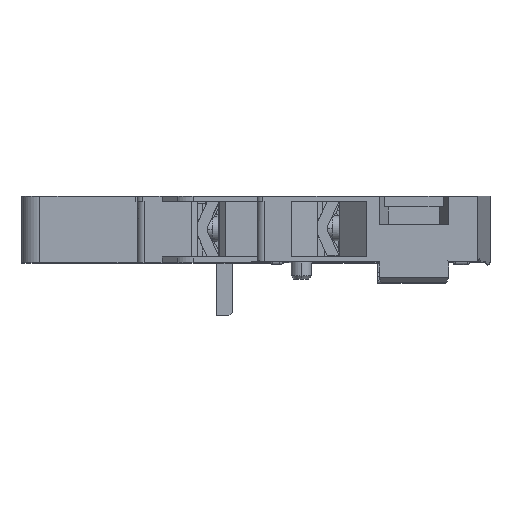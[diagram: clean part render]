
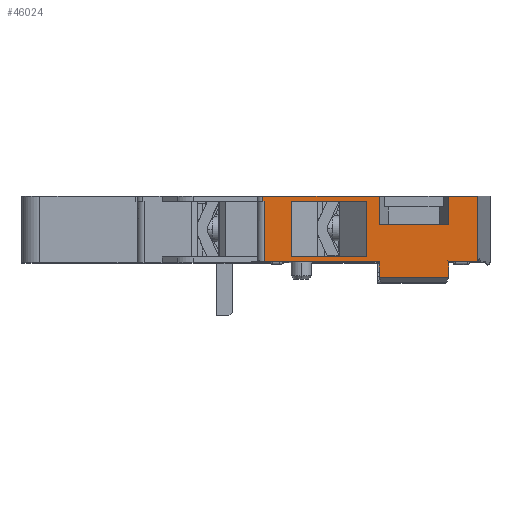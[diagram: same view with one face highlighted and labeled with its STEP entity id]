
A CAD part, top view. The second image highlights one B-rep face of the part: STEP entity #46024.
In plain terms, the highlighted planar face has unit normal (0, 0, 1).
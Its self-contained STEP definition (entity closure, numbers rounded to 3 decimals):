
#1677=DIRECTION('',(-1.,0.,0.));
#1678=VECTOR('',#1677,4.113);
#1679=CARTESIAN_POINT('',(63.814,9.2,43.5));
#1680=LINE('',#1679,#1678);
#1693=DIRECTION('',(-1.,0.,0.));
#1694=VECTOR('',#1693,16.3);
#1695=CARTESIAN_POINT('',(50.,9.2,43.5));
#1696=LINE('',#1695,#1694);
#4376=DIRECTION('',(0.,-1.,0.));
#4377=VECTOR('',#4376,7.8);
#4378=CARTESIAN_POINT('',(48.2,8.5,43.5));
#4379=LINE('',#4378,#4377);
#4380=DIRECTION('',(1.,0.,0.));
#4381=VECTOR('',#4380,0.2);
#4382=CARTESIAN_POINT('',(33.7,8.5,43.5));
#4383=LINE('',#4382,#4381);
#4384=DIRECTION('',(1.,0.,0.));
#4385=VECTOR('',#4384,9.7);
#4386=CARTESIAN_POINT('',(50.,5.2,43.5));
#4387=LINE('',#4386,#4385);
#4388=DIRECTION('',(-1.,0.,0.));
#4389=VECTOR('',#4388,4.113);
#4390=CARTESIAN_POINT('',(63.814,0.,43.5));
#4391=LINE('',#4390,#4389);
#4392=DIRECTION('',(0.,-1.,0.));
#4393=VECTOR('',#4392,2.2);
#4394=CARTESIAN_POINT('',(59.7,0.,43.5));
#4395=LINE('',#4394,#4393);
#4396=DIRECTION('',(-1.,0.,0.));
#4397=VECTOR('',#4396,9.7);
#4398=CARTESIAN_POINT('',(59.7,-2.2,43.5));
#4399=LINE('',#4398,#4397);
#4400=DIRECTION('',(-1.,0.,0.));
#4401=VECTOR('',#4400,16.1);
#4402=CARTESIAN_POINT('',(50.,0.,43.5));
#4403=LINE('',#4402,#4401);
#4404=DIRECTION('',(1.,0.,0.));
#4405=VECTOR('',#4404,10.5);
#4406=CARTESIAN_POINT('',(37.7,8.5,43.5));
#4407=LINE('',#4406,#4405);
#4408=DIRECTION('',(-1.,0.,0.));
#4409=VECTOR('',#4408,10.5);
#4410=CARTESIAN_POINT('',(48.2,0.7,43.5));
#4411=LINE('',#4410,#4409);
#4417=DIRECTION('',(0.,-1.,0.));
#4418=VECTOR('',#4417,8.5);
#4419=CARTESIAN_POINT('',(33.9,8.5,43.5));
#4420=LINE('',#4419,#4418);
#4421=CARTESIAN_POINT('',(33.9,0.,43.5));
#6633=DIRECTION('',(0.,1.,0.));
#6634=VECTOR('',#6633,9.2);
#6635=CARTESIAN_POINT('',(63.814,0.,43.5));
#6636=LINE('',#6635,#6634);
#6683=CARTESIAN_POINT('',(63.814,0.,43.5));
#6707=CARTESIAN_POINT('',(59.7,0.,43.5));
#6741=DIRECTION('',(0.,-1.,0.));
#6742=VECTOR('',#6741,4.);
#6743=CARTESIAN_POINT('',(59.7,9.2,43.5));
#6744=LINE('',#6743,#6742);
#6781=DIRECTION('',(0.,1.,0.));
#6782=VECTOR('',#6781,4.);
#6783=CARTESIAN_POINT('',(50.,5.2,43.5));
#6784=LINE('',#6783,#6782);
#6857=CARTESIAN_POINT('',(50.,0.,43.5));
#6873=DIRECTION('',(0.,-1.,0.));
#6874=VECTOR('',#6873,2.2);
#6875=CARTESIAN_POINT('',(50.,0.,43.5));
#6876=LINE('',#6875,#6874);
#21591=DIRECTION('',(0.,1.,0.));
#21592=VECTOR('',#21591,7.8);
#21593=CARTESIAN_POINT('',(37.7,0.7,43.5));
#21594=LINE('',#21593,#21592);
#26755=DIRECTION('',(0.,1.,0.));
#26756=VECTOR('',#26755,0.7);
#26757=CARTESIAN_POINT('',(33.7,8.5,43.5));
#26758=LINE('',#26757,#26756);
#32713=CARTESIAN_POINT('',(48.2,0.7,43.5));
#32714=CARTESIAN_POINT('',(37.7,0.7,43.5));
#32715=VERTEX_POINT('',#32713);
#32716=VERTEX_POINT('',#32714);
#34599=CARTESIAN_POINT('',(59.7,-2.2,43.5));
#34600=CARTESIAN_POINT('',(50.,-2.2,43.5));
#34601=VERTEX_POINT('',#34599);
#34602=VERTEX_POINT('',#34600);
#34611=VERTEX_POINT('',#6683);
#34626=VERTEX_POINT('',#6707);
#34627=VERTEX_POINT('',#6857);
#35240=VERTEX_POINT('',#4421);
#38277=CARTESIAN_POINT('',(63.814,9.2,43.5));
#38279=VERTEX_POINT('',#38277);
#38318=CARTESIAN_POINT('',(33.7,9.2,43.5));
#38320=VERTEX_POINT('',#38318);
#39518=CARTESIAN_POINT('',(33.7,8.5,43.5));
#39520=VERTEX_POINT('',#39518);
#39526=CARTESIAN_POINT('',(48.2,8.5,43.5));
#39528=VERTEX_POINT('',#39526);
#40055=CARTESIAN_POINT('',(59.7,9.2,43.5));
#40057=VERTEX_POINT('',#40055);
#40061=CARTESIAN_POINT('',(50.,9.2,43.5));
#40062=VERTEX_POINT('',#40061);
#40552=CARTESIAN_POINT('',(59.7,5.2,43.5));
#40554=VERTEX_POINT('',#40552);
#40565=CARTESIAN_POINT('',(50.,5.2,43.5));
#40567=VERTEX_POINT('',#40565);
#40598=CARTESIAN_POINT('',(37.7,8.5,43.5));
#40600=VERTEX_POINT('',#40598);
#41228=CARTESIAN_POINT('',(33.9,8.5,43.5));
#41230=VERTEX_POINT('',#41228);
#45983=CARTESIAN_POINT('',(32.9,0.,43.5));
#45984=DIRECTION('',(0.,0.,1.));
#45985=DIRECTION('',(1.,0.,0.));
#45986=AXIS2_PLACEMENT_3D('',#45983,#45984,#45985);
#45987=PLANE('',#45986);
#45989=ORIENTED_EDGE('',*,*,#45988,.F.);
#45991=ORIENTED_EDGE('',*,*,#45990,.F.);
#45993=ORIENTED_EDGE('',*,*,#45992,.T.);
#45994=ORIENTED_EDGE('',*,*,#43400,.F.);
#45996=ORIENTED_EDGE('',*,*,#45995,.F.);
#45998=ORIENTED_EDGE('',*,*,#45997,.T.);
#46000=ORIENTED_EDGE('',*,*,#45999,.F.);
#46001=ORIENTED_EDGE('',*,*,#43392,.F.);
#46003=ORIENTED_EDGE('',*,*,#46002,.F.);
#46005=ORIENTED_EDGE('',*,*,#46004,.T.);
#46007=ORIENTED_EDGE('',*,*,#46006,.T.);
#46009=ORIENTED_EDGE('',*,*,#46008,.T.);
#46011=ORIENTED_EDGE('',*,*,#46010,.F.);
#46013=ORIENTED_EDGE('',*,*,#46012,.T.);
#46014=EDGE_LOOP('',(#45989,#45991,#45993,#45994,#45996,#45998,#46000,#46001,
#46003,#46005,#46007,#46009,#46011,#46013));
#46015=FACE_OUTER_BOUND('',#46014,.F.);
#46016=ORIENTED_EDGE('',*,*,#45976,.F.);
#46017=ORIENTED_EDGE('',*,*,#44798,.F.);
#46019=ORIENTED_EDGE('',*,*,#46018,.F.);
#46021=ORIENTED_EDGE('',*,*,#46020,.F.);
#46022=EDGE_LOOP('',(#46016,#46017,#46019,#46021));
#46023=FACE_BOUND('',#46022,.F.);
#46024=ADVANCED_FACE('',(#46015,#46023),#45987,.T.);
#43392=EDGE_CURVE('',#38279,#40057,#1680,.T.);
#43400=EDGE_CURVE('',#40062,#38320,#1696,.T.);
#44798=EDGE_CURVE('',#40600,#39528,#4407,.T.);
#45976=EDGE_CURVE('',#39528,#32715,#4379,.T.);
#45988=EDGE_CURVE('',#41230,#35240,#4420,.T.);
#45990=EDGE_CURVE('',#39520,#41230,#4383,.T.);
#45992=EDGE_CURVE('',#39520,#38320,#26758,.T.);
#45995=EDGE_CURVE('',#40567,#40062,#6784,.T.);
#45997=EDGE_CURVE('',#40567,#40554,#4387,.T.);
#45999=EDGE_CURVE('',#40057,#40554,#6744,.T.);
#46002=EDGE_CURVE('',#34611,#38279,#6636,.T.);
#46004=EDGE_CURVE('',#34611,#34626,#4391,.T.);
#46006=EDGE_CURVE('',#34626,#34601,#4395,.T.);
#46008=EDGE_CURVE('',#34601,#34602,#4399,.T.);
#46010=EDGE_CURVE('',#34627,#34602,#6876,.T.);
#46012=EDGE_CURVE('',#34627,#35240,#4403,.T.);
#46018=EDGE_CURVE('',#32716,#40600,#21594,.T.);
#46020=EDGE_CURVE('',#32715,#32716,#4411,.T.);
